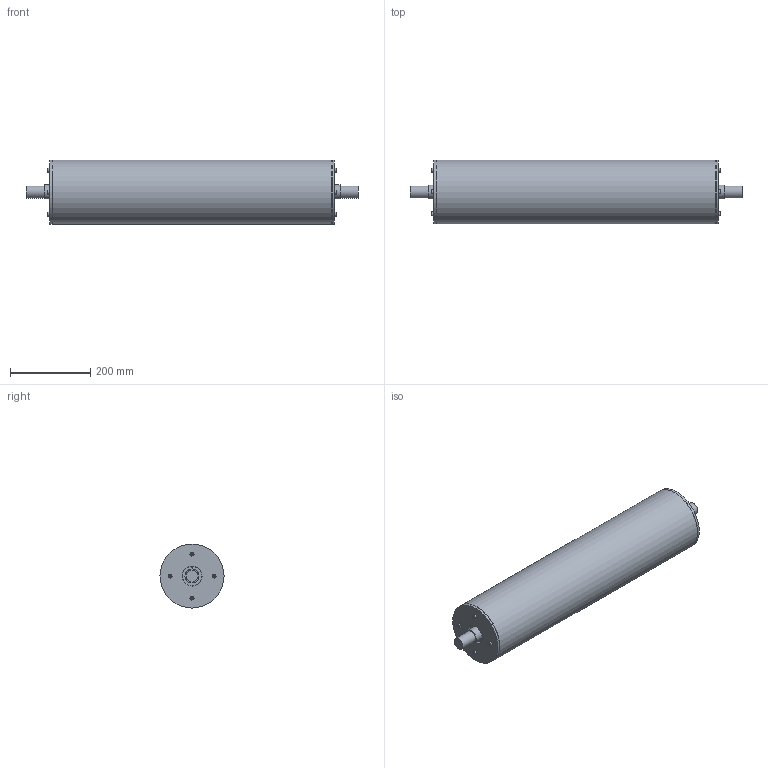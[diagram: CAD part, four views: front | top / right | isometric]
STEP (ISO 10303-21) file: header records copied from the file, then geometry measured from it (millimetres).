
FILE_DESCRIPTION(('Open CASCADE Model'),'2;1');
FILE_NAME('Open CASCADE Shape Model','2026-09-14T21:52:21',('Author'),( 'Open CASCADE'),'Open CASCADE STEP processor 7.8','Open CASCADE 7.8' ,'Unknown');
FILE_SCHEMA(('AUTOMOTIVE_DESIGN { 1 0 10303 214 1 1 1 1 }'));
Length unit declared in the file: millimetre
Products named in the file (45): SJ-I160_Dead_Shaft_Web_Idler; 01_AL6061_Hollow_Shell_D160_L700; 02_S45C_Stationary_Stepped_Axle_L830; 03_L_Bearing_End_Plug; 04_L_Removable_End_Cover; 05_L_Bearing_Inner_Ring; 06_L_Bearing_Outer_Ring; 07_L_Bearing_Ball_01; 07_L_Bearing_Ball_02; 07_L_Bearing_Ball_03; 07_L_Bearing_Ball_04; 07_L_Bearing_Ball_05; 07_L_Bearing_Ball_06; 07_L_Bearing_Ball_07; 07_L_Bearing_Ball_08; 07_L_Bearing_Ball_09; 07_L_Bearing_Ball_10; 08_L_Bearing_Seal_1; 08_L_Bearing_Seal_2; 09_L_Split_Shaft_Collar; 10_L_M6_Cover_Screw_1; 10_L_M6_Cover_Screw_2; 10_L_M6_Cover_Screw_3; 10_L_M6_Cover_Screw_4; 03_R_Bearing_End_Plug; 04_R_Removable_End_Cover; 05_R_Bearing_Inner_Ring; 06_R_Bearing_Outer_Ring; 07_R_Bearing_Ball_01; 07_R_Bearing_Ball_02; 07_R_Bearing_Ball_03; 07_R_Bearing_Ball_04; 07_R_Bearing_Ball_05; 07_R_Bearing_Ball_06; 07_R_Bearing_Ball_07; 07_R_Bearing_Ball_08; 07_R_Bearing_Ball_09; 07_R_Bearing_Ball_10; 08_R_Bearing_Seal_1; 08_R_Bearing_Seal_2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
Assembly tree (44 placements, depth 2):
  SJ-I160_Dead_Shaft_Web_Idler
    01_AL6061_Hollow_Shell_D160_L700
    02_S45C_Stationary_Stepped_Axle_L830
    03_L_Bearing_End_Plug
    04_L_Removable_End_Cover
    05_L_Bearing_Inner_Ring
    06_L_Bearing_Outer_Ring
    07_L_Bearing_Ball_01
    07_L_Bearing_Ball_02
    07_L_Bearing_Ball_03
    07_L_Bearing_Ball_04
    07_L_Bearing_Ball_05
    07_L_Bearing_Ball_06
    07_L_Bearing_Ball_07
    07_L_Bearing_Ball_08
    07_L_Bearing_Ball_09
    07_L_Bearing_Ball_10
    08_L_Bearing_Seal_1
    08_L_Bearing_Seal_2
    09_L_Split_Shaft_Collar
    10_L_M6_Cover_Screw_1
    10_L_M6_Cover_Screw_2
    10_L_M6_Cover_Screw_3
    10_L_M6_Cover_Screw_4
    03_R_Bearing_End_Plug
    04_R_Removable_End_Cover
    05_R_Bearing_Inner_Ring
    06_R_Bearing_Outer_Ring
    07_R_Bearing_Ball_01
    07_R_Bearing_Ball_02
    07_R_Bearing_Ball_03
    07_R_Bearing_Ball_04
    07_R_Bearing_Ball_05
    07_R_Bearing_Ball_06
    07_R_Bearing_Ball_07
    07_R_Bearing_Ball_08
    07_R_Bearing_Ball_09
    07_R_Bearing_Ball_10
    08_R_Bearing_Seal_1
    08_R_Bearing_Seal_2
    09_R_Split_Shaft_Collar
    10_R_M6_Cover_Screw_1
    10_R_M6_Cover_Screw_2
    10_R_M6_Cover_Screw_3
    10_R_M6_Cover_Screw_4
Bounding box: 830 x 160 x 160 mm (x, y, z)
Volume: 4618933.6 mm3; surface area: 1012785.4 mm2
Topology: 44 solids, 44 shells, 227 faces, 443 edges, 294 vertices
Faces by surface type: plane 130, cylinder 73, sphere 20, cone 4
Full cylindrical faces by diameter (mm): 6 x8, 6.6 x16, 10 x8, 30 x2, 35 x4, 40 x1, 42 x2, 46 x6, 50 x2, 60 x6, 72 x4, 144 x3, 160 x3
Entity records: 11576 total; most frequent: CARTESIAN_POINT 1923, DIRECTION 1745, LINE 781, VECTOR 781, ORIENTED_EDGE 766, PCURVE 766, DEFINITIONAL_REPRESENTATION 766, AXIS2_PLACEMENT_3D 422
